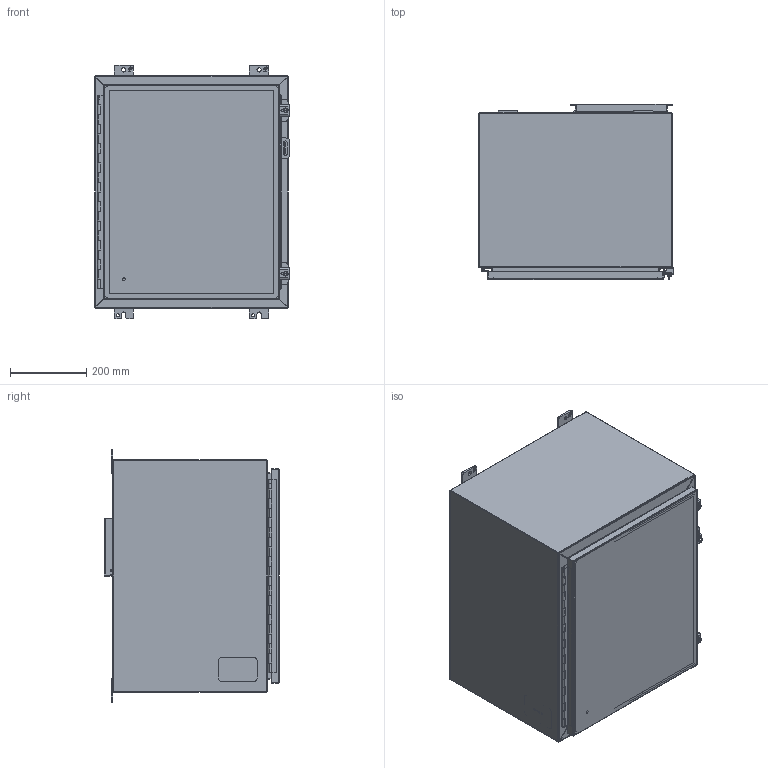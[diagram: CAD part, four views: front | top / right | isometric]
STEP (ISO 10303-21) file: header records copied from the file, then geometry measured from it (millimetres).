
FILE_DESCRIPTION(/* description */ ('Unknown'),/* implementation_level */ '2;1');
FILE_NAME(/* name */ '1418E16LP',/* time_stamp */ '2026-02-20T16:30:12-05:00',/* author */ ('Unknown'),/* organization */ ('Unknown'),/* preprocessor_version */ 'ST-DEVELOPER v18.104',/* originating_system */ 'Solid Edge',/* authorisation */ 'Unknown');
FILE_SCHEMA (('AUTOMOTIVE_DESIGN {1 0 10303 214 3 1 1}'));
Length unit declared in the file: millimetre
Products named in the file (31): 1418E16LP; KIT90256; LAB30005; NTS165305; NTS16535; KIT90518; WAF25059; NTS166105; STD26094; STD21878; COM42780; HNG10620-20P; COM40153-1; COM71780-10; COM40153-2; COM70219_oa_0; HNG10620-20C; PNT11078; COM48476; FET07710; AKT90223; SPR20265; SCC19011; WAF25035; COM42667; HNG10620-20B; BUL10020; QLB30109; PKT99; COM48535
Assembly tree (42 placements, depth 3):
  1418E16LP
    KIT90256
      LAB30005
      NTS165305
      NTS16535
    KIT90518
      WAF25059
      NTS166105
      LAB30005
    STD26094  x4
    STD21878
    COM42780  x2
    HNG10620-20P
    COM40153-1
    COM71780-10
      COM40153-2
      COM70219_oa_0
      HNG10620-20C
      COM71780-10
      STD21878
      PNT11078
    COM48476
    FET07710  x4
    AKT90223  x2
      SPR20265
      SCC19011
      WAF25035
      COM42667
    HNG10620-20B
    BUL10020
    QLB30109
    PKT99
    COM48535  x2
    PNT11078
Bounding box: 511.18 x 460.38 x 666.75 mm (x, y, z)
Volume: 3354667.7 mm3; surface area: 3614673.9 mm2
Topology: 36 solids, 37 shells, 1177 faces, 3035 edges, 1966 vertices
Faces by surface type: plane 770, cylinder 302, bspline 57, cone 26, torus 20, sphere 2
Full cylindrical faces by diameter (mm): 3.175 x1, 4.763 x1, 4.976 x1, 5.41 x2, 6.198 x2, 6.35 x3, 6.731 x2, 7.137 x2, 7.805 x1, 7.938 x4, 8.382 x4, 9.525 x4, 9.906 x2, 11.113 x4, 11.303 x1, 12.7 x2, 16.51 x4, 25.4 x1, 88.9 x1
Entity records: 28508 total; most frequent: CARTESIAN_POINT 7755, ORIENTED_EDGE 4148, DIRECTION 3909, EDGE_CURVE 2074, LINE 1379, VECTOR 1379, VERTEX_POINT 1357, AXIS2_PLACEMENT_3D 1265
